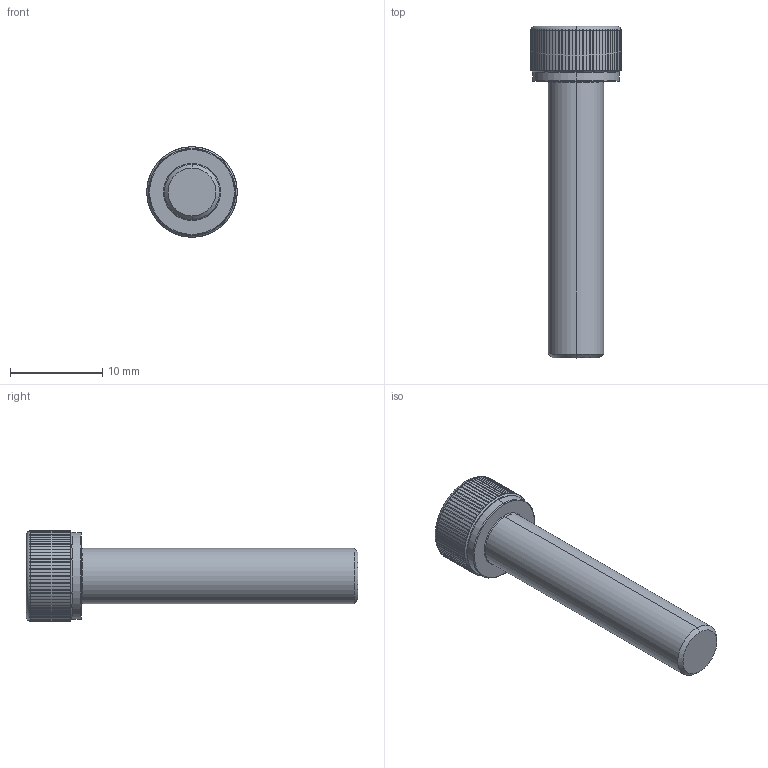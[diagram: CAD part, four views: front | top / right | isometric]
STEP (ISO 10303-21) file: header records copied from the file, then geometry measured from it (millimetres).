
FILE_DESCRIPTION (( 'STEP AP203' ), '1' );
FILE_NAME ('LGDT-304-M6x30.STEP', '2026-08-10T04:43:10', ( '' ), ( '' ), 'SwSTEP 2.0', 'SolidWorks 2020', '' );
FILE_SCHEMA (( 'CONFIG_CONTROL_DESIGN' ));
Length unit declared in the file: millimetre
Products named in the file (1): LGDT-304-M6x30
Bounding box: 9.8 x 36 x 9.8 mm (x, y, z)
Volume: 1214.9 mm3; surface area: 943.2 mm2
Topology: 1 solids, 1 shells, 204 faces, 576 edges, 376 vertices
Faces by surface type: cylinder 175, cone 11, plane 10, torus 8
Entity records: 8367 total; most frequent: CARTESIAN_POINT 3208, ORIENTED_EDGE 1152, DIRECTION 988, EDGE_CURVE 576, AXIS2_PLACEMENT_3D 398, VERTEX_POINT 376, EDGE_LOOP 206, ADVANCED_FACE 204
